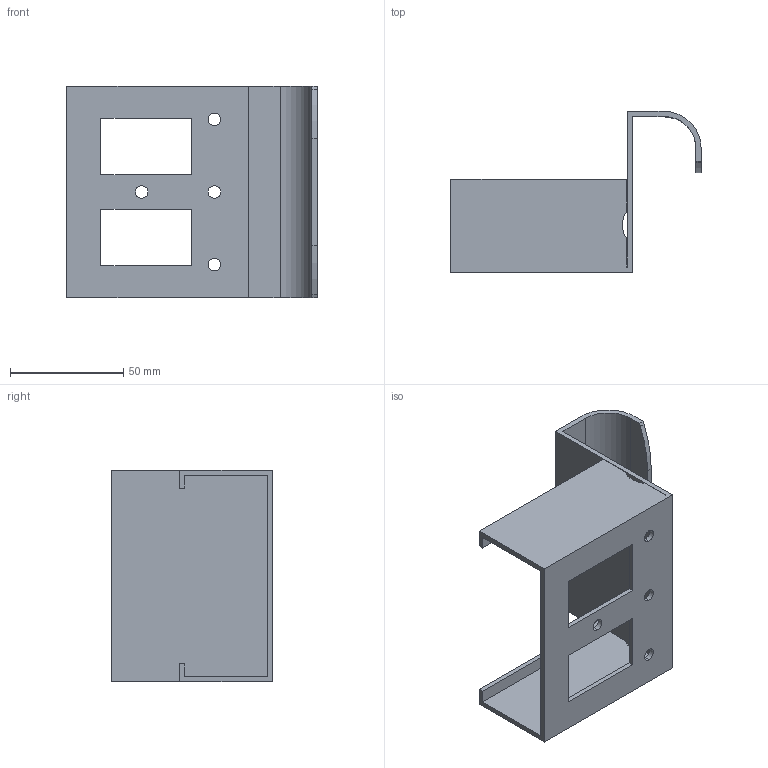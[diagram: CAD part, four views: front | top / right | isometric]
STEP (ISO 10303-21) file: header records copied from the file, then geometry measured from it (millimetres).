
FILE_DESCRIPTION (( 'STEP AP214' ), '1' );
FILE_NAME ('JB-507W.step', '2024-01-17T00:58:41', ( 'catia' ), ( 'HP Inc.' ), 'SwSTEP 2.0', 'SolidWorks 2021', '' );
FILE_SCHEMA (( 'AUTOMOTIVE_DESIGN' ));
Length unit declared in the file: millimetre
Products named in the file (1): JB-507W
Bounding box: 110.3 x 70.9 x 93.4 mm (x, y, z)
Volume: 53066.3 mm3; surface area: 48629.7 mm2
Topology: 1 solids, 1 shells, 48 faces, 138 edges, 92 vertices
Faces by surface type: plane 34, cylinder 14
Entity records: 1628 total; most frequent: CARTESIAN_POINT 279, ORIENTED_EDGE 276, DIRECTION 264, EDGE_CURVE 138, LINE 110, VECTOR 110, VERTEX_POINT 92, AXIS2_PLACEMENT_3D 77
